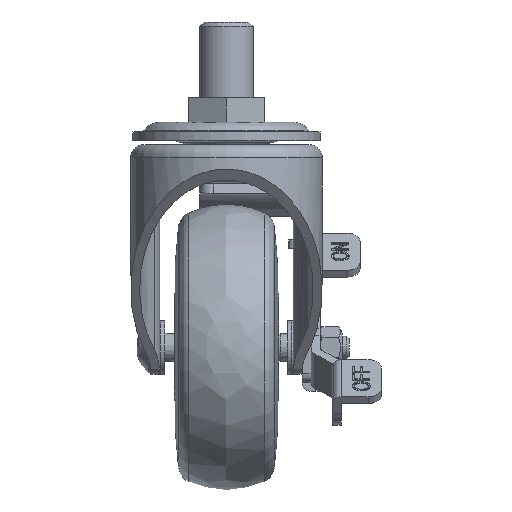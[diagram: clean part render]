
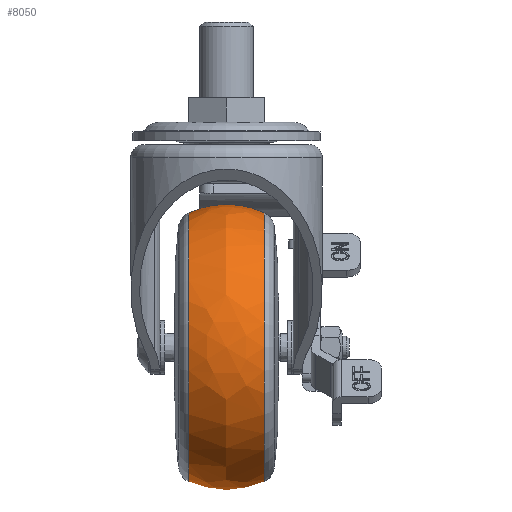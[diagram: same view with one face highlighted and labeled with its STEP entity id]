
A CAD part, left-side view. The second image highlights one B-rep face of the part: STEP entity #8050.
In plain terms, the highlighted free-form (B-spline) face has degree [2, 2] with [3, 9] control points.
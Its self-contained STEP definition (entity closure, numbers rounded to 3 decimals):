
#278=(
BOUNDED_SURFACE()
B_SPLINE_SURFACE(2,2,((#15186,#15187,#15188,#15189,#15190,#15191,#15192,
#15193,#15194),(#15195,#15196,#15197,#15198,#15199,#15200,#15201,#15202,
#15203),(#15204,#15205,#15206,#15207,#15208,#15209,#15210,#15211,#15212)),
 .UNSPECIFIED.,.F.,.T.,.F.)
B_SPLINE_SURFACE_WITH_KNOTS((3,3),(3,2,2,2,3),(-0.438,0.438),
(-3.142,-1.571,0.,1.571,3.142),
 .UNSPECIFIED.)
GEOMETRIC_REPRESENTATION_ITEM()
RATIONAL_B_SPLINE_SURFACE(((1.,0.707,1.,0.707,1.,
0.707,1.,0.707,1.),(0.906,0.64,
0.906,0.64,0.906,0.64,
0.906,0.64,0.906),(1.,0.707,
1.,0.707,1.,0.707,1.,0.707,1.)))
REPRESENTATION_ITEM('')
SURFACE()
);
#1187=FACE_OUTER_BOUND('',#1701,.T.);
#1701=EDGE_LOOP('',(#7530,#7531,#7532,#7533,#7534,#7535));
#2042=CIRCLE('',#8862,30.112);
#2043=CIRCLE('',#8863,30.112);
#2054=CIRCLE('',#8880,30.112);
#2055=CIRCLE('',#8881,30.112);
#2057=CIRCLE('',#8883,20.);
#4054=VERTEX_POINT('',#15147);
#4055=VERTEX_POINT('',#15149);
#4066=VERTEX_POINT('',#15181);
#4067=VERTEX_POINT('',#15182);
#5209=EDGE_CURVE('',#4054,#4055,#2042,.T.);
#5210=EDGE_CURVE('',#4055,#4054,#2043,.T.);
#5224=EDGE_CURVE('',#4066,#4067,#2054,.T.);
#5225=EDGE_CURVE('',#4067,#4066,#2055,.T.);
#5227=EDGE_CURVE('',#4054,#4067,#2057,.T.);
#7530=ORIENTED_EDGE('',*,*,#5210,.F.);
#7531=ORIENTED_EDGE('',*,*,#5209,.F.);
#7532=ORIENTED_EDGE('',*,*,#5227,.T.);
#7533=ORIENTED_EDGE('',*,*,#5225,.T.);
#7534=ORIENTED_EDGE('',*,*,#5224,.T.);
#7535=ORIENTED_EDGE('',*,*,#5227,.F.);
#8050=ADVANCED_FACE('',(#1187),#278,.F.);
#8862=AXIS2_PLACEMENT_3D('',#15150,#10922,#10923);
#8863=AXIS2_PLACEMENT_3D('',#15151,#10924,#10925);
#8880=AXIS2_PLACEMENT_3D('',#15183,#10961,#10962);
#8881=AXIS2_PLACEMENT_3D('',#15184,#10963,#10964);
#8883=AXIS2_PLACEMENT_3D('',#15213,#10967,#10968);
#10922=DIRECTION('center_axis',(-1.,0.,0.));
#10923=DIRECTION('ref_axis',(0.,0.,
-1.));
#10924=DIRECTION('center_axis',(-1.,0.,0.));
#10925=DIRECTION('ref_axis',(0.,0.,
-1.));
#10961=DIRECTION('center_axis',(-1.,0.,0.));
#10962=DIRECTION('ref_axis',(0.,0.,
-1.));
#10963=DIRECTION('center_axis',(-1.,0.,0.));
#10964=DIRECTION('ref_axis',(0.,0.,
-1.));
#10967=DIRECTION('center_axis',(0.,1.,0.));
#10968=DIRECTION('ref_axis',(0.,0.,1.));
#15147=CARTESIAN_POINT('',(-12.668,-1.656,32.642));
#15149=CARTESIAN_POINT('',(-12.668,-1.656,-27.583));
#15150=CARTESIAN_POINT('Origin',(-12.668,-1.656,2.53));
#15151=CARTESIAN_POINT('Origin',(-12.668,-1.656,2.53));
#15181=CARTESIAN_POINT('',(4.296,-1.656,-27.583));
#15182=CARTESIAN_POINT('',(4.296,-1.656,32.642));
#15183=CARTESIAN_POINT('Origin',(4.296,-1.656,2.53));
#15184=CARTESIAN_POINT('Origin',(4.296,-1.656,2.53));
#15186=CARTESIAN_POINT('Ctrl Pts',(4.296,-1.656,32.642));
#15187=CARTESIAN_POINT('Ctrl Pts',(4.296,28.456,32.642));
#15188=CARTESIAN_POINT('Ctrl Pts',(4.296,28.456,2.53));
#15189=CARTESIAN_POINT('Ctrl Pts',(4.296,28.456,-27.583));
#15190=CARTESIAN_POINT('Ctrl Pts',(4.296,-1.656,-27.583));
#15191=CARTESIAN_POINT('Ctrl Pts',(4.296,-31.768,-27.583));
#15192=CARTESIAN_POINT('Ctrl Pts',(4.296,-31.768,2.53));
#15193=CARTESIAN_POINT('Ctrl Pts',(4.296,-31.768,32.642));
#15194=CARTESIAN_POINT('Ctrl Pts',(4.296,-1.656,32.642));
#15195=CARTESIAN_POINT('Ctrl Pts',(-4.186,-1.656,
36.614));
#15196=CARTESIAN_POINT('Ctrl Pts',(-4.186,32.428,36.614));
#15197=CARTESIAN_POINT('Ctrl Pts',(-4.186,32.428,2.53));
#15198=CARTESIAN_POINT('Ctrl Pts',(-4.186,32.428,-31.555));
#15199=CARTESIAN_POINT('Ctrl Pts',(-4.186,-1.656,-31.555));
#15200=CARTESIAN_POINT('Ctrl Pts',(-4.186,-35.741,
-31.555));
#15201=CARTESIAN_POINT('Ctrl Pts',(-4.186,-35.741,
2.53));
#15202=CARTESIAN_POINT('Ctrl Pts',(-4.186,-35.741,
36.614));
#15203=CARTESIAN_POINT('Ctrl Pts',(-4.186,-1.656,
36.614));
#15204=CARTESIAN_POINT('Ctrl Pts',(-12.668,-1.656,
32.642));
#15205=CARTESIAN_POINT('Ctrl Pts',(-12.668,28.456,32.642));
#15206=CARTESIAN_POINT('Ctrl Pts',(-12.668,28.456,2.53));
#15207=CARTESIAN_POINT('Ctrl Pts',(-12.668,28.456,-27.583));
#15208=CARTESIAN_POINT('Ctrl Pts',(-12.668,-1.656,-27.583));
#15209=CARTESIAN_POINT('Ctrl Pts',(-12.668,-31.768,
-27.583));
#15210=CARTESIAN_POINT('Ctrl Pts',(-12.668,-31.768,
2.53));
#15211=CARTESIAN_POINT('Ctrl Pts',(-12.668,-31.768,
32.642));
#15212=CARTESIAN_POINT('Ctrl Pts',(-12.668,-1.656,
32.642));
#15213=CARTESIAN_POINT('Origin',(-4.186,-1.656,14.53));
